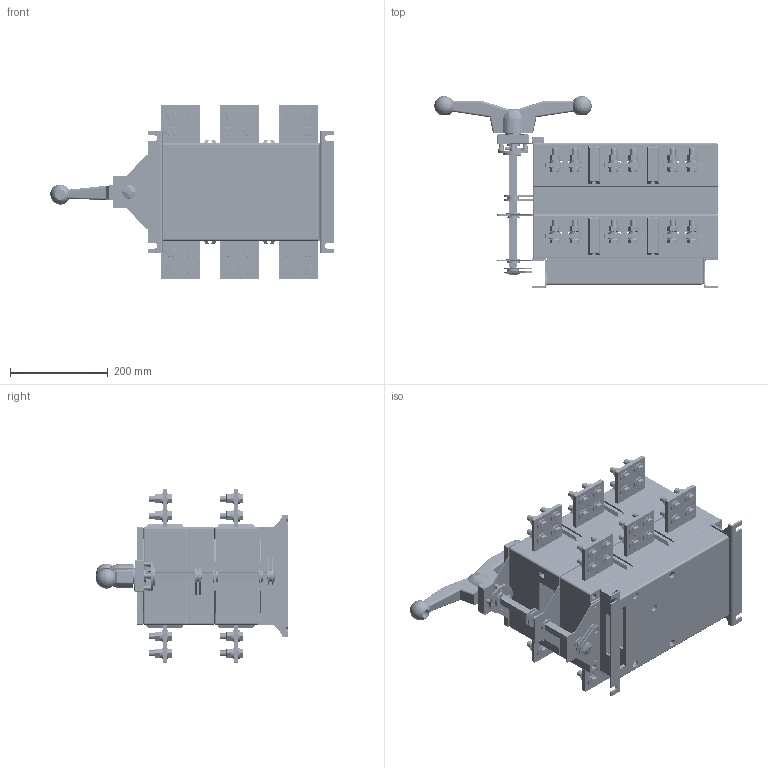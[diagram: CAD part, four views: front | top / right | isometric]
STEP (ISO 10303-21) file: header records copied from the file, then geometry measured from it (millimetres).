
FILE_DESCRIPTION((''),'2;1');
FILE_NAME('ASM0003_ASM','2024-01-24T',('zhuanghy'),(''),'CREO PARAMETRIC BY PTC INC, 2018070','CREO PARAMETRIC BY PTC INC, 2018070','');
FILE_SCHEMA(('AUTOMOTIVE_DESIGN { 1 0 10303 214 1 1 1 1 }'));
Products named in the file (1146): NH40_1250____-24518_1_1; SPRING_LOCK_WASHERS--NORMA_A_37; HEX_HEAD_BOLTS-FULL_THREAD_A_37; HEX_HEAD_BOLTS-FULL_THREAD_A_38; PLAIN_WASHERS--PRODUCT_GR_A_120; HEX_NUTS__STYLE_1-GRADES_A_A_37; PLAIN_WASHERS--PRODUCT_GR_A_121; HEX_NUTS__STYLE_1-GRADES_A_A_38; PLAIN_WASHERS--PRODUCT_GR_A_122; SPRING_LOCK_WASHERS--NORMA_A_38; PLAIN_WASHERS--PRODUCT_GR_A_123; PLAIN_WASHERS--PRODUCT_GR_A_124; HEX_HEAD_BOLTS-FULL_THREAD_A_39; HEX_HEAD_BOLTS-FULL_THREAD_A_40; NH40_1600______1_AF0_1; HEX_NUTS__STYLE_1-GRADES_A_A_39; PLAIN_WASHERS--PRODUCT_GR_A_125; PLAIN_WASHERS--PRODUCT_GR_A_126; PLAIN_WASHERS--PRODUCT_GR_A_127; SPRING_LOCK_WASHERS--NORMA_A_39; SPRING_LOCK_WASHERS--NORMA_A_40; HEX_NUTS__STYLE_1-GRADES_A_A_40; NH40_1600_________1_AF0_ASM_1_ASM; NH40_1250____-25750_1_1; NH40_1250____B_1_2_AF0_1; NH40_1250____-42138_1_1; NH40_1250_5__1_2_AF0_1; NH40_1250___-8870_1_1; _____630_2_1_2_1; NH40_1250___-25585_1_1; NH40_1250___-41645_1_1; SPRING_LOCK_WASHERS--NORMA_A_41; HEX_HEAD_BOLTS-FULL_THREAD_A_41; HEX_HEAD_BOLTS-FULL_THREAD_A_42; PLAIN_WASHERS--PRODUCT_GR_A_128; HEX_NUTS__STYLE_1-GRADES_A_A_41; PLAIN_WASHERS--PRODUCT_GR_A_129; HEX_NUTS__STYLE_1-GRADES_A_A_42; PLAIN_WASHERS--PRODUCT_GR_A_130; SPRING_LOCK_WASHERS--NORMA_A_42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
Assembly tree (1152 placements, depth 8):
  ASM0003_ASM
    NH40-1600-3CS_3P_202209_ASM
      ASM0001_ASM_1_ASM
        NH40_1600_____1_AF0_ASM_1_ASM
          NH40_1250____-24518_1_1  x2
          NH40_1600_________1_AF0_ASM_1_ASM
            SPRING_LOCK_WASHERS--NORMA_A_37
            HEX_HEAD_BOLTS-FULL_THREAD_A_37
            HEX_HEAD_BOLTS-FULL_THREAD_A_38
            PLAIN_WASHERS--PRODUCT_GR_A_120
            HEX_NUTS__STYLE_1-GRADES_A_A_37
            PLAIN_WASHERS--PRODUCT_GR_A_121
            HEX_NUTS__STYLE_1-GRADES_A_A_38
            PLAIN_WASHERS--PRODUCT_GR_A_122
            SPRING_LOCK_WASHERS--NORMA_A_38
            PLAIN_WASHERS--PRODUCT_GR_A_123
            PLAIN_WASHERS--PRODUCT_GR_A_124
            HEX_HEAD_BOLTS-FULL_THREAD_A_39
            HEX_HEAD_BOLTS-FULL_THREAD_A_40
            NH40_1600______1_AF0_1
            HEX_NUTS__STYLE_1-GRADES_A_A_39
            PLAIN_WASHERS--PRODUCT_GR_A_125
            PLAIN_WASHERS--PRODUCT_GR_A_126
            PLAIN_WASHERS--PRODUCT_GR_A_127
            SPRING_LOCK_WASHERS--NORMA_A_39
            SPRING_LOCK_WASHERS--NORMA_A_40
            HEX_NUTS__STYLE_1-GRADES_A_A_40
          NH40_1250____-25750_1_1
          NH40_1250____B_1_2_AF0_1
          NH40_1250____-42138_1_1  x4
          NH40_1250_5__1_2_AF0_1
          NH40_1250___-8870_1_1
          _____630_2_1_2_1
          NH40_1250___-25585_1_1
          NH40_1250___-41645_1_1
          NH40_1600_________1_AF1_ASM_1_ASM
            SPRING_LOCK_WASHERS--NORMA_A_41
            HEX_HEAD_BOLTS-FULL_THREAD_A_41
            HEX_HEAD_BOLTS-FULL_THREAD_A_42
            PLAIN_WASHERS--PRODUCT_GR_A_128
            HEX_NUTS__STYLE_1-GRADES_A_A_41
            PLAIN_WASHERS--PRODUCT_GR_A_129
            HEX_NUTS__STYLE_1-GRADES_A_A_42
            PLAIN_WASHERS--PRODUCT_GR_A_130
            SPRING_LOCK_WASHERS--NORMA_A_42
            PLAIN_WASHERS--PRODUCT_GR_A_131
            PLAIN_WASHERS--PRODUCT_GR_A_132
            HEX_HEAD_BOLTS-FULL_THREAD_A_43
            HEX_HEAD_BOLTS-FULL_THREAD_A_44
            NH40_1600______1_AF1_1
            HEX_NUTS__STYLE_1-GRADES_A_A_43
            PLAIN_WASHERS--PRODUCT_GR_A_133
            PLAIN_WASHERS--PRODUCT_GR_A_134
            PLAIN_WASHERS--PRODUCT_GR_A_135
            SPRING_LOCK_WASHERS--NORMA_A_43
            SPRING_LOCK_WASHERS--NORMA_A_44
            HEX_NUTS__STYLE_1-GRADES_A_A_44
          NH40_1600_________1_AF2_ASM_1_ASM
            SPRING_LOCK_WASHERS--NORMA_A_45
            HEX_HEAD_BOLTS-FULL_THREAD_A_45
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Bounding box: 578.82 x 391.9 x 356.1 mm (x, y, z)
Volume: 16073012.3 mm3; surface area: 2368194.3 mm2
Topology: 293 solids, 293 shells, 5414 faces, 12919 edges, 8326 vertices
Faces by surface type: plane 2719, cylinder 1677, cone 882, extrusion 96, sphere 20, torus 14, bspline 6
Entity records: 233514 total; most frequent: CARTESIAN_POINT 44886, DIRECTION 32894, ORIENTED_EDGE 25408, AXIS2_PLACEMENT_3D 13023, EDGE_CURVE 12704, VERTEX_POINT 8194, PRESENTATION_LAYER_ASSIGNMENT 8191, VECTOR 6848
